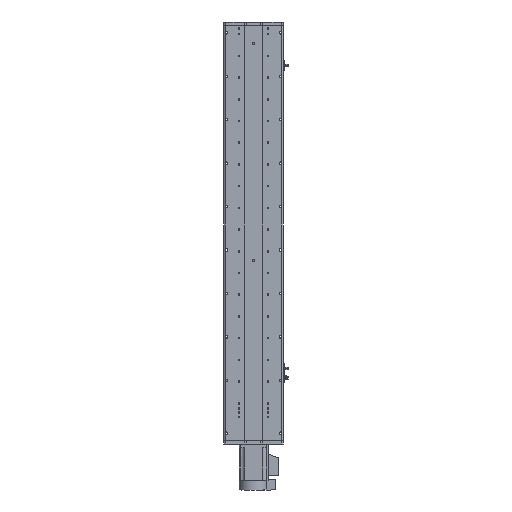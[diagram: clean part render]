
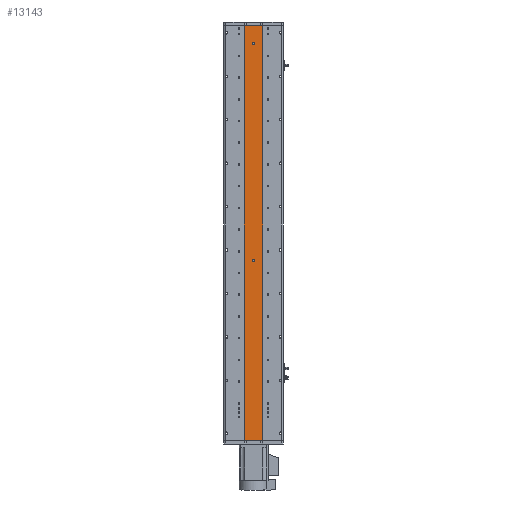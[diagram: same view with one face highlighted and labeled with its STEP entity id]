
A CAD part, front view. The second image highlights one B-rep face of the part: STEP entity #13143.
In plain terms, the highlighted planar face has unit normal (0, -1, 0).
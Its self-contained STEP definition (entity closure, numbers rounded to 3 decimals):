
#296 = CARTESIAN_POINT ( 'NONE',  ( 25., 1., -573. ) ) ;
#530 = ORIENTED_EDGE ( 'NONE', *, *, #7288, .F. ) ;
#647 = DIRECTION ( 'NONE',  ( 0., 1., 0. ) ) ;
#892 = CARTESIAN_POINT ( 'NONE',  ( 25., 1., 573. ) ) ;
#1018 = DIRECTION ( 'NONE',  ( 0., 0., -1. ) ) ;
#1069 = VERTEX_POINT ( 'NONE', #32565 ) ;
#1795 = DIRECTION ( 'NONE',  ( 0., -1., 0. ) ) ;
#1865 = FACE_OUTER_BOUND ( 'NONE', #22441, .T. ) ;
#2607 = VERTEX_POINT ( 'NONE', #25087 ) ;
#2861 = ORIENTED_EDGE ( 'NONE', *, *, #23815, .T. ) ;
#2949 = VERTEX_POINT ( 'NONE', #14372 ) ;
#4061 = DIRECTION ( 'NONE',  ( 0., 0., -1. ) ) ;
#5109 = LINE ( 'NONE', #35848, #11479 ) ;
#5276 = CARTESIAN_POINT ( 'NONE',  ( 25., 1., 573. ) ) ;
#7011 = CARTESIAN_POINT ( 'NONE',  ( -25., 1., -573. ) ) ;
#7288 = EDGE_CURVE ( 'NONE', #1069, #22274, #9192, .T. ) ;
#7508 = ORIENTED_EDGE ( 'NONE', *, *, #29052, .F. ) ;
#8122 = DIRECTION ( 'NONE',  ( 0., -1., 0. ) ) ;
#9192 = CIRCLE ( 'NONE', #20794, 3. ) ;
#9448 = ORIENTED_EDGE ( 'NONE', *, *, #36291, .T. ) ;
#10185 = FACE_BOUND ( 'NONE', #21047, .T. ) ;
#10317 = CARTESIAN_POINT ( 'NONE',  ( -25., 1., 573. ) ) ;
#10612 = DIRECTION ( 'NONE',  ( 0., -1., 0. ) ) ;
#11186 = VERTEX_POINT ( 'NONE', #19686 ) ;
#11479 = VECTOR ( 'NONE', #23356, 1000. ) ;
#11804 = EDGE_CURVE ( 'NONE', #2607, #2949, #24073, .T. ) ;
#12051 = ORIENTED_EDGE ( 'NONE', *, *, #39475, .F. ) ;
#12260 = EDGE_CURVE ( 'NONE', #38147, #19610, #24500, .T. ) ;
#12575 = ORIENTED_EDGE ( 'NONE', *, *, #11804, .F. ) ;
#12698 = VERTEX_POINT ( 'NONE', #7011 ) ;
#12825 = CARTESIAN_POINT ( 'NONE',  ( 0., 1., 523. ) ) ;
#13102 = PLANE ( 'NONE',  #14155 ) ;
#13143 = ADVANCED_FACE ( 'NONE', ( #34237, #10185, #1865 ), #13102, .F. ) ;
#13210 = LINE ( 'NONE', #10317, #37233 ) ;
#14155 = AXIS2_PLACEMENT_3D ( 'NONE', #28770, #647, #22585 ) ;
#14372 = CARTESIAN_POINT ( 'NONE',  ( 0., 1., 520. ) ) ;
#15988 = DIRECTION ( 'NONE',  ( 0., 0., -1. ) ) ;
#19610 = VERTEX_POINT ( 'NONE', #296 ) ;
#19686 = CARTESIAN_POINT ( 'NONE',  ( -25., 1., 573. ) ) ;
#20501 = CARTESIAN_POINT ( 'NONE',  ( 0., 1., -77. ) ) ;
#20794 = AXIS2_PLACEMENT_3D ( 'NONE', #20501, #1795, #23710 ) ;
#21047 = EDGE_LOOP ( 'NONE', ( #7508, #530 ) ) ;
#21861 = AXIS2_PLACEMENT_3D ( 'NONE', #26938, #8122, #30114 ) ;
#22274 = VERTEX_POINT ( 'NONE', #33358 ) ;
#22441 = EDGE_LOOP ( 'NONE', ( #9448, #35247, #24372, #2861 ) ) ;
#22572 = VECTOR ( 'NONE', #25699, 1000. ) ;
#22585 = DIRECTION ( 'NONE',  ( 0., 0., 1. ) ) ;
#23356 = DIRECTION ( 'NONE',  ( 1., 0., 0. ) ) ;
#23710 = DIRECTION ( 'NONE',  ( 0., 0., -1. ) ) ;
#23815 = EDGE_CURVE ( 'NONE', #11186, #12698, #13210, .T. ) ;
#24073 = CIRCLE ( 'NONE', #29588, 3. ) ;
#24372 = ORIENTED_EDGE ( 'NONE', *, *, #34681, .F. ) ;
#24500 = LINE ( 'NONE', #892, #39222 ) ;
#25087 = CARTESIAN_POINT ( 'NONE',  ( 0., 1., 526. ) ) ;
#25699 = DIRECTION ( 'NONE',  ( 1., 0., 0. ) ) ;
#26938 = CARTESIAN_POINT ( 'NONE',  ( 0., 1., -77. ) ) ;
#28770 = CARTESIAN_POINT ( 'NONE',  ( 25., 1., 573. ) ) ;
#28781 = CIRCLE ( 'NONE', #21861, 3. ) ;
#29052 = EDGE_CURVE ( 'NONE', #22274, #1069, #28781, .T. ) ;
#29419 = CARTESIAN_POINT ( 'NONE',  ( 0., 1., 523. ) ) ;
#29588 = AXIS2_PLACEMENT_3D ( 'NONE', #29419, #10612, #32572 ) ;
#30114 = DIRECTION ( 'NONE',  ( 0., 0., -1. ) ) ;
#30947 = LINE ( 'NONE', #38174, #22572 ) ;
#32565 = CARTESIAN_POINT ( 'NONE',  ( 0., 1., -74. ) ) ;
#32572 = DIRECTION ( 'NONE',  ( 0., 0., -1. ) ) ;
#33358 = CARTESIAN_POINT ( 'NONE',  ( 0., 1., -80. ) ) ;
#34237 = FACE_BOUND ( 'NONE', #38583, .T. ) ;
#34681 = EDGE_CURVE ( 'NONE', #11186, #38147, #5109, .T. ) ;
#34812 = DIRECTION ( 'NONE',  ( 0., -1., 0. ) ) ;
#35247 = ORIENTED_EDGE ( 'NONE', *, *, #12260, .F. ) ;
#35848 = CARTESIAN_POINT ( 'NONE',  ( 25., 1., 573. ) ) ;
#35872 = CIRCLE ( 'NONE', #39463, 3. ) ;
#36291 = EDGE_CURVE ( 'NONE', #12698, #19610, #30947, .T. ) ;
#37233 = VECTOR ( 'NONE', #1018, 1000. ) ;
#38147 = VERTEX_POINT ( 'NONE', #5276 ) ;
#38174 = CARTESIAN_POINT ( 'NONE',  ( 25., 1., -573. ) ) ;
#38583 = EDGE_LOOP ( 'NONE', ( #12051, #12575 ) ) ;
#39222 = VECTOR ( 'NONE', #4061, 1000. ) ;
#39463 = AXIS2_PLACEMENT_3D ( 'NONE', #12825, #34812, #15988 ) ;
#39475 = EDGE_CURVE ( 'NONE', #2949, #2607, #35872, .T. ) ;
